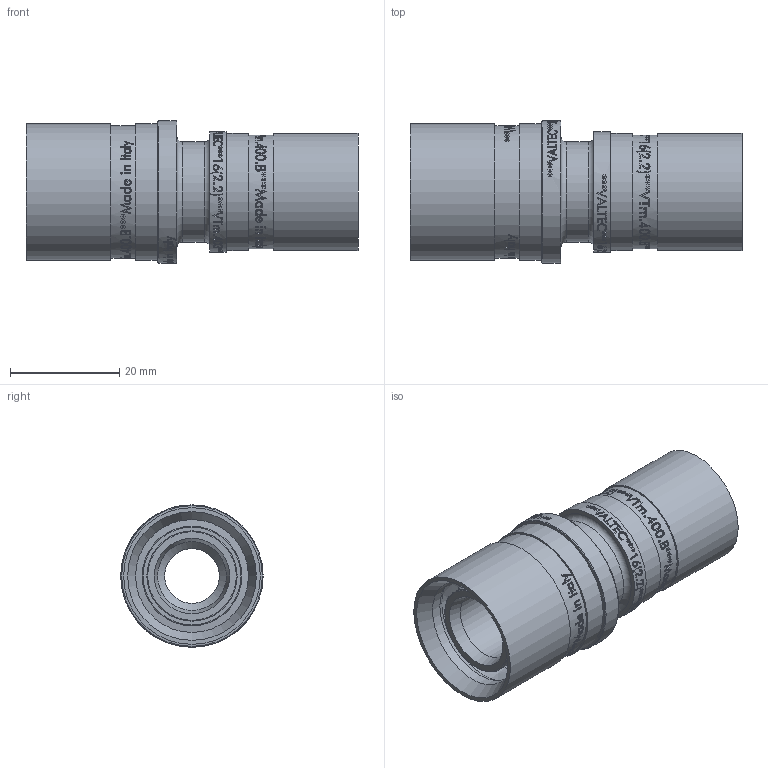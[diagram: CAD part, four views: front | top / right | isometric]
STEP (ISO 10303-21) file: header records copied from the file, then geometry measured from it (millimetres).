
FILE_DESCRIPTION(/* description */ (''),/* implementation_level */ '2;1');
FILE_NAME(/* name */ 'F:\Артём\00000\Работа удаленка\Аксеальные фитинги\VTm.403.BG.002016.stp',/* time_stamp */ '2021-01-25T15:34:01+03:00',/* author */ ('almis'),/* organization */ (''),/* preprocessor_version */ 'ST-DEVELOPER v18',/* originating_system */ 'Autodesk Inventor 2020',/* authorisation */ '');
FILE_SCHEMA (('AUTOMOTIVE_DESIGN { 1 0 10303 214 3 1 1 }'));
Length unit declared in the file: millimetre
Products named in the file (1): VTm.403.BG.001616
Bounding box: 60.71 x 26 x 26 mm (x, y, z)
Volume: 12396.7 mm3; surface area: 12279.2 mm2
Topology: 1 solids, 1 shells, 2471 faces, 6750 edges, 4527 vertices
Faces by surface type: bspline 1390, plane 784, cylinder 258, torus 24, cone 15
Full cylindrical faces by diameter (mm): 10 x1, 12.6 x1, 12.8 x5, 13.4 x4, 15 x1, 15.7 x5, 16.5 x4, 16.9 x2, 18.2 x1, 18.3 x1, 20.65 x2, 20.8 x1, 21.4 x2, 22 x1, 24.3 x1, 25 x2, 26 x1
Entity records: 103509 total; most frequent: CARTESIAN_POINT 49346, ORIENTED_EDGE 13500, DIRECTION 7165, EDGE_CURVE 6750, VERTEX_POINT 4527, LINE 2927, VECTOR 2927, B_SPLINE_CURVE_WITH_KNOTS 2786
